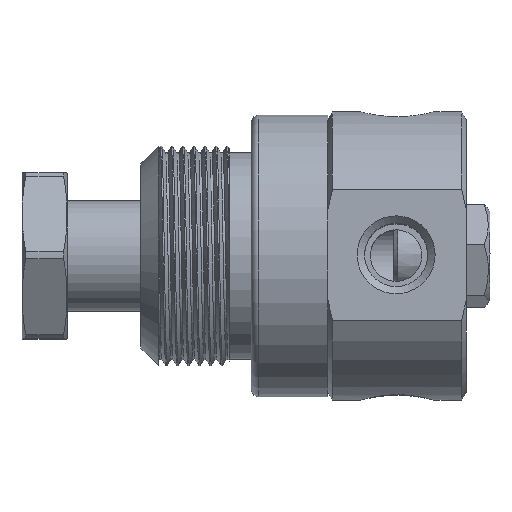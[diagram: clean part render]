
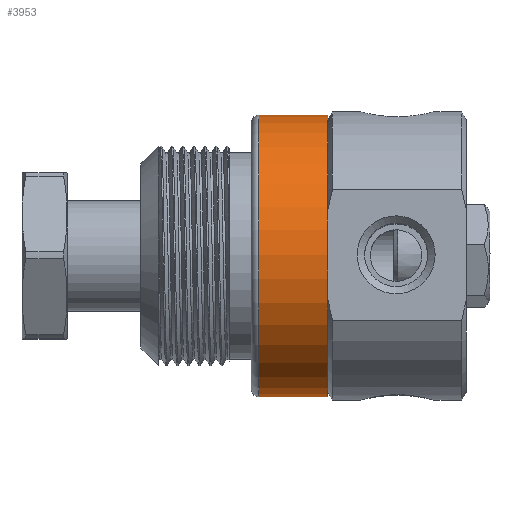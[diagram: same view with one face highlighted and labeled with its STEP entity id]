
A CAD part, left-side view. The second image highlights one B-rep face of the part: STEP entity #3953.
In plain terms, the highlighted cylindrical face has radius 19.12 mm (diameter 38.24 mm), a full revolution.
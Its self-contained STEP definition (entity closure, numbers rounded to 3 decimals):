
#229=CYLINDRICAL_SURFACE('',#4373,19.12);
#407=CIRCLE('',#4370,19.12);
#408=CIRCLE('',#4371,19.12);
#410=CIRCLE('',#4374,19.12);
#662=FACE_OUTER_BOUND('',#909,.T.);
#909=EDGE_LOOP('',(#3520,#3521,#3522,#3523,#3524));
#1200=LINE('',#12128,#1472);
#1472=VECTOR('',#5368,19.12);
#1878=VERTEX_POINT('',#12120);
#1879=VERTEX_POINT('',#12122);
#1880=VERTEX_POINT('',#12127);
#2436=EDGE_CURVE('',#1878,#1879,#407,.T.);
#2437=EDGE_CURVE('',#1879,#1878,#408,.T.);
#2439=EDGE_CURVE('',#1879,#1880,#1200,.T.);
#2440=EDGE_CURVE('',#1880,#1880,#410,.T.);
#3520=ORIENTED_EDGE('',*,*,#2437,.F.);
#3521=ORIENTED_EDGE('',*,*,#2439,.T.);
#3522=ORIENTED_EDGE('',*,*,#2440,.T.);
#3523=ORIENTED_EDGE('',*,*,#2439,.F.);
#3524=ORIENTED_EDGE('',*,*,#2436,.F.);
#3953=ADVANCED_FACE('',(#662),#229,.T.);
#4370=AXIS2_PLACEMENT_3D('',#12123,#5360,#5361);
#4371=AXIS2_PLACEMENT_3D('',#12124,#5362,#5363);
#4373=AXIS2_PLACEMENT_3D('',#12126,#5366,#5367);
#4374=AXIS2_PLACEMENT_3D('',#12129,#5369,#5370);
#5360=DIRECTION('center_axis',(0.,1.,0.));
#5361=DIRECTION('ref_axis',(1.,0.,0.));
#5362=DIRECTION('center_axis',(0.,1.,0.));
#5363=DIRECTION('ref_axis',(1.,0.,0.));
#5366=DIRECTION('center_axis',(0.,1.,0.));
#5367=DIRECTION('ref_axis',(1.,0.,0.));
#5368=DIRECTION('',(0.,-1.,0.));
#5369=DIRECTION('center_axis',(0.,1.,0.));
#5370=DIRECTION('ref_axis',(1.,0.,0.));
#12120=CARTESIAN_POINT('',(0.,9.4,-19.12));
#12122=CARTESIAN_POINT('',(-19.12,9.4,0.));
#12123=CARTESIAN_POINT('Origin',(0.,9.4,0.));
#12124=CARTESIAN_POINT('Origin',(0.,9.4,0.));
#12126=CARTESIAN_POINT('Origin',(0.,0.,0.));
#12127=CARTESIAN_POINT('',(-19.12,0.,0.));
#12128=CARTESIAN_POINT('',(-19.12,0.,0.));
#12129=CARTESIAN_POINT('Origin',(0.,0.,0.));
